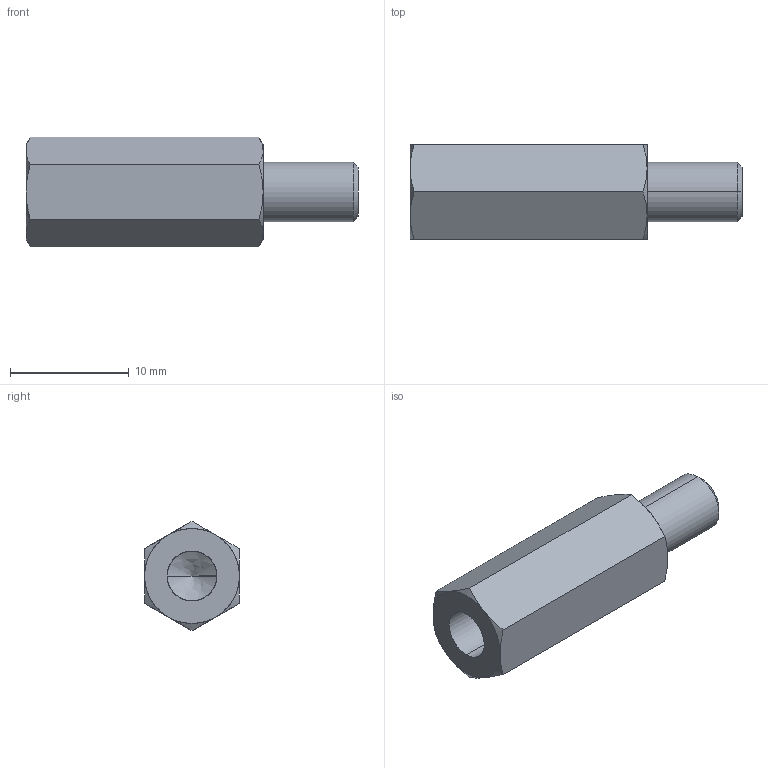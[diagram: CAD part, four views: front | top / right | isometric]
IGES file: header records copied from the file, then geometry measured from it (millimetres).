
Start section: SolidWorks IGES file using analytic representation for surfaces
Global section: file name: C:\Users\render1\Desktop\P0185_IGES\P0185.05-20.igs; native system: SolidWorks 2009; preprocessor: SolidWorks 2009; author: render1; date: 130627.112503; units: millimetre
Bounding box: 28 x 8 x 9.24 mm (x, y, z)
Surface area: 889.4 mm2 (no closed solid volume)
Topology: 0 solids, 0 shells, 29 faces, 324 edges, 322 vertices
Faces by surface type: revolution 20, bspline 9
